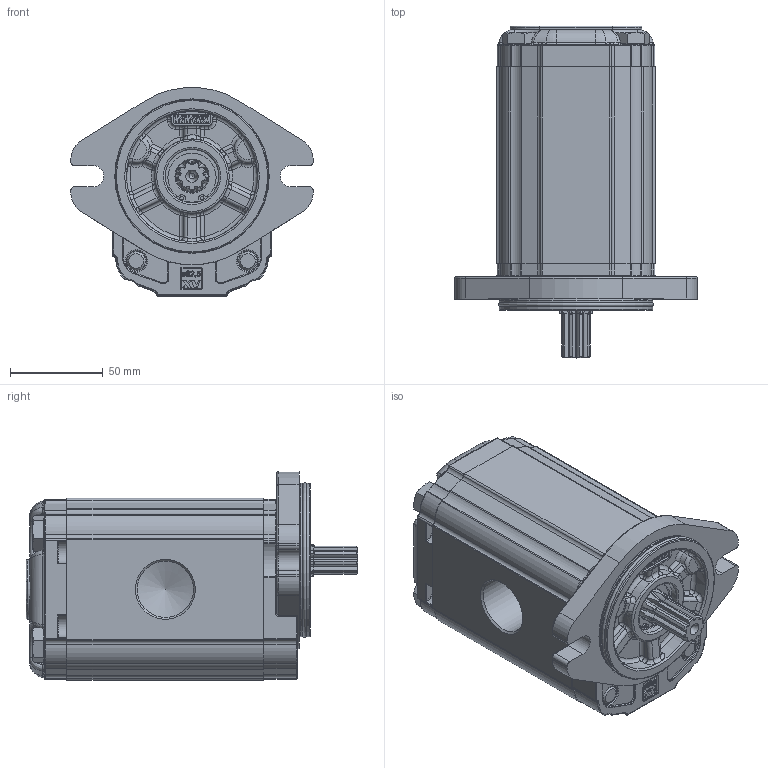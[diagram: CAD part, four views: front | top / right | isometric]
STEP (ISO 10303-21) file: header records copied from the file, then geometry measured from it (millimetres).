
FILE_DESCRIPTION(/* description */ ('Unknown'),/* implementation_level */ '2;1');
FILE_NAME(/* name */ 'X2M6331IDDE',/* time_stamp */ '2021-04-14T19:29:37+02:00',/* author */ ('Unknown'),/* organization */ ('Unknown'),/* preprocessor_version */ 'ST-DEVELOPER v16.7',/* originating_system */ 'Solid Edge',/* authorisation */ 'Unknown');
FILE_SCHEMA (('AUTOMOTIVE_DESIGN {1 0 10303 214 3 1 1}'));
Products named in the file (5): X2M6331IDDE; X2M31; 2I; X2DDH106; XM219-E
Assembly tree (4 placements, depth 2):
  X2M6331IDDE
    X2M31
    2I
    X2DDH106
    XM219-E
Bounding box: 130.38 x 178.7 x 112.3 mm (x, y, z)
Volume: 1098431.3 mm3; surface area: 120340 mm2
Topology: 4 solids, 5 shells, 1548 faces, 3923 edges, 2447 vertices
Faces by surface type: plane 599, cylinder 430, bspline 210, torus 206, cone 77, sphere 26
Full cylindrical faces by diameter (mm): 2 x2, 11 x2, 11.445 x1, 16 x4, 17.42 x1, 18 x1, 20.595 x1, 23.332 x1, 25.834 x1, 28.5 x1, 28.56 x1, 28.57 x1, 28.8 x1, 30.291 x2, 30.4 x1, 79.6 x2, 82.5 x2
Entity records: 58786 total; most frequent: CARTESIAN_POINT 12903, ORIENTED_EDGE 7616, DIRECTION 7286, EDGE_CURVE 3808, AXIS2_PLACEMENT_3D 2688, VERTEX_POINT 2405, LINE 1910, VECTOR 1910
